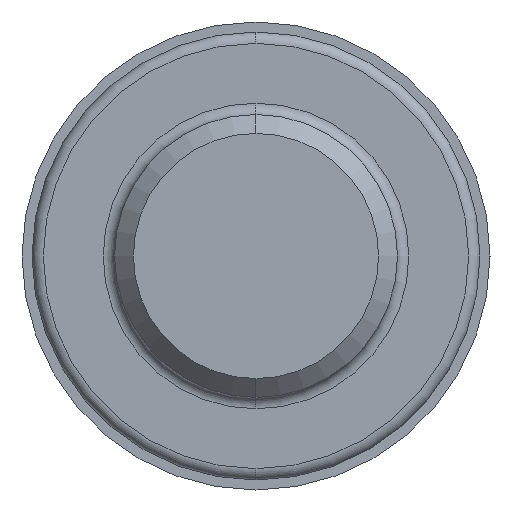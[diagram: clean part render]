
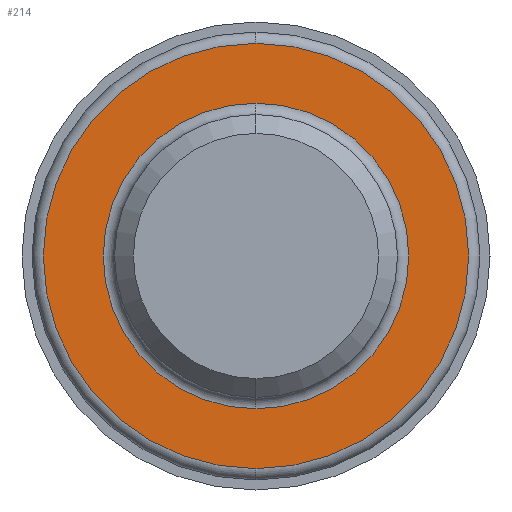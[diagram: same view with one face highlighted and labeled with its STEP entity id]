
A CAD part, left-side view. The second image highlights one B-rep face of the part: STEP entity #214.
In plain terms, the highlighted planar face has unit normal (-1, 0, 0).
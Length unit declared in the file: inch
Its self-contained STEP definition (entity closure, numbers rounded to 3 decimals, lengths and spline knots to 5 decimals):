
#41 = DIRECTION ( 'NONE',  ( -1., 0., 0. ) ) ;
#45 = EDGE_CURVE ( 'NONE', #126, #468, #571, .T. ) ;
#60 = DIRECTION ( 'NONE',  ( -1., 0., 0. ) ) ;
#75 = EDGE_CURVE ( 'NONE', #772, #516, #526, .T. ) ;
#105 = DIRECTION ( 'NONE',  ( -1., 0., 0. ) ) ;
#126 = VERTEX_POINT ( 'NONE', #391 ) ;
#127 = CARTESIAN_POINT ( 'NONE',  ( 2.12, 0., -0.5635 ) ) ;
#139 = DIRECTION ( 'NONE',  ( 0., 0., -1. ) ) ;
#214 = ADVANCED_FACE ( 'NONE', ( #661, #787 ), #589, .F. ) ;
#224 = AXIS2_PLACEMENT_3D ( 'NONE', #777, #398, #649 ) ;
#227 = CARTESIAN_POINT ( 'NONE',  ( 2.12, 0., 0.5635 ) ) ;
#272 = DIRECTION ( 'NONE',  ( 1., 0., 0. ) ) ;
#306 = DIRECTION ( 'NONE',  ( 0., 0., 1. ) ) ;
#333 = CARTESIAN_POINT ( 'NONE',  ( 2.12, 0.5635, 0. ) ) ;
#356 = ORIENTED_EDGE ( 'NONE', *, *, #824, .F. ) ;
#389 = EDGE_LOOP ( 'NONE', ( #432, #534 ) ) ;
#391 = CARTESIAN_POINT ( 'NONE',  ( 2.12, 0., 0.40485 ) ) ;
#398 = DIRECTION ( 'NONE',  ( -1., 0., 0. ) ) ;
#432 = ORIENTED_EDGE ( 'NONE', *, *, #75, .T. ) ;
#436 = AXIS2_PLACEMENT_3D ( 'NONE', #630, #60, #306 ) ;
#458 = AXIS2_PLACEMENT_3D ( 'NONE', #333, #272, #139 ) ;
#468 = VERTEX_POINT ( 'NONE', #736 ) ;
#513 = CIRCLE ( 'NONE', #224, 0.5635 ) ;
#516 = VERTEX_POINT ( 'NONE', #127 ) ;
#526 = CIRCLE ( 'NONE', #436, 0.5635 ) ;
#531 = AXIS2_PLACEMENT_3D ( 'NONE', #561, #105, #812 ) ;
#534 = ORIENTED_EDGE ( 'NONE', *, *, #694, .T. ) ;
#561 = CARTESIAN_POINT ( 'NONE',  ( 2.12, 0., 0. ) ) ;
#571 = CIRCLE ( 'NONE', #677, 0.40485 ) ;
#589 = PLANE ( 'NONE',  #458 ) ;
#630 = CARTESIAN_POINT ( 'NONE',  ( 2.12, 0., 0. ) ) ;
#649 = DIRECTION ( 'NONE',  ( 0., 0., 1. ) ) ;
#654 = CIRCLE ( 'NONE', #531, 0.40485 ) ;
#656 = ORIENTED_EDGE ( 'NONE', *, *, #45, .F. ) ;
#661 = FACE_BOUND ( 'NONE', #821, .T. ) ;
#677 = AXIS2_PLACEMENT_3D ( 'NONE', #811, #41, #679 ) ;
#679 = DIRECTION ( 'NONE',  ( 0., 0., 1. ) ) ;
#694 = EDGE_CURVE ( 'NONE', #516, #772, #513, .T. ) ;
#736 = CARTESIAN_POINT ( 'NONE',  ( 2.12, 0., -0.40485 ) ) ;
#772 = VERTEX_POINT ( 'NONE', #227 ) ;
#777 = CARTESIAN_POINT ( 'NONE',  ( 2.12, 0., 0. ) ) ;
#787 = FACE_OUTER_BOUND ( 'NONE', #389, .T. ) ;
#811 = CARTESIAN_POINT ( 'NONE',  ( 2.12, 0., 0. ) ) ;
#812 = DIRECTION ( 'NONE',  ( 0., 0., 1. ) ) ;
#821 = EDGE_LOOP ( 'NONE', ( #656, #356 ) ) ;
#824 = EDGE_CURVE ( 'NONE', #468, #126, #654, .T. ) ;
